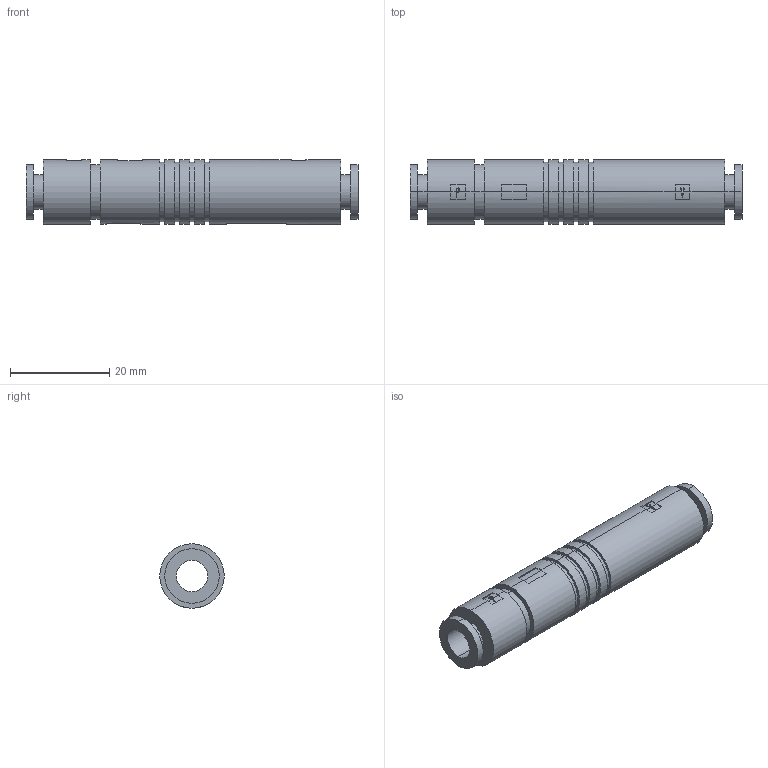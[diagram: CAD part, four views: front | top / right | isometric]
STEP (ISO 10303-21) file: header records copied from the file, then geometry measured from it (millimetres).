
FILE_DESCRIPTION (( 'STEP AP203' ), '1' );
FILE_NAME ('ZU-07S.STEP', '2022-09-21T09:03:23', ( '' ), ( '' ), 'SwSTEP 2.0', 'SolidWorks 2022', '' );
FILE_SCHEMA (( 'CONFIG_CONTROL_DESIGN' ));
Length unit declared in the file: millimetre
Products named in the file (1): ZU-07S
Bounding box: 67 x 13 x 13 mm (x, y, z)
Volume: 6142.3 mm3; surface area: 4625.2 mm2
Topology: 1 solids, 1 shells, 233 faces, 633 edges, 422 vertices
Faces by surface type: bspline 136, cylinder 54, plane 43
Entity records: 13514 total; most frequent: CARTESIAN_POINT 8693, ORIENTED_EDGE 1266, EDGE_CURVE 633, DIRECTION 510, B_SPLINE_CURVE_WITH_KNOTS 431, VERTEX_POINT 422, EDGE_LOOP 255, ADVANCED_FACE 233
